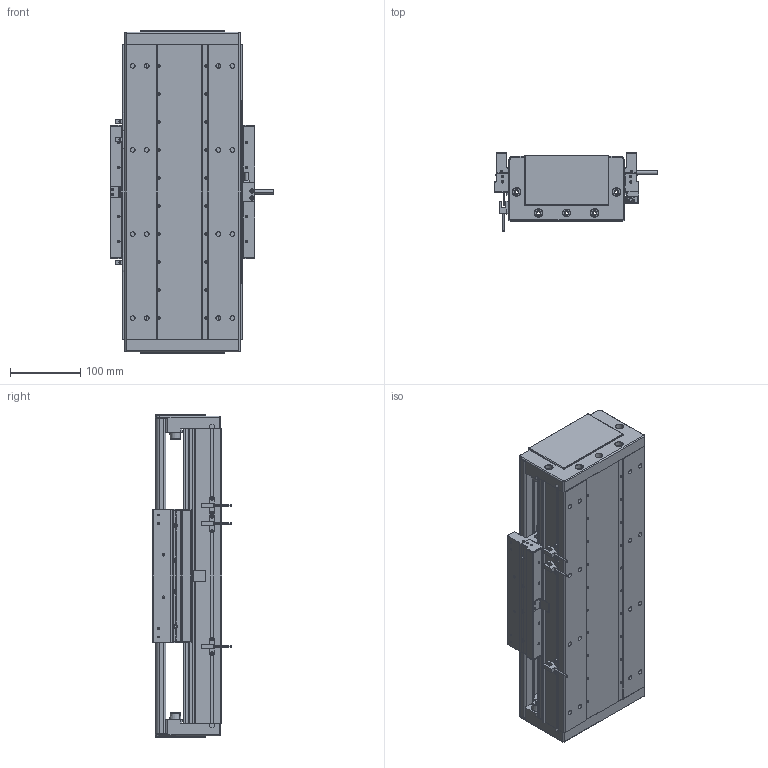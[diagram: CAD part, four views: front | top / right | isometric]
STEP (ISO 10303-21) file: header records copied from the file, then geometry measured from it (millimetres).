
FILE_DESCRIPTION (( 'STEP AP203' ), '1' );
FILE_NAME ('DA-C165-C2-T180-C010-0.2 直线电机.STEP', '2023-05-11T07:27:51', ( '微软用户' ), ( '微软中国' ), 'SwSTEP 2.0', 'SolidWorks 2019', '' );
FILE_SCHEMA (( 'CONFIG_CONTROL_DESIGN' ));
Length unit declared in the file: millimetre
Products named in the file (15): 复件 DMA-010-0.2 读数头^DA-C165-C2-T-C010-0.2-N 直线电机; DA-C165-C2-T180-C010-0.2 眻盄萇儂; 复件 DA165-GYP-00 光电感应片^DA-C165-C2-T-C010-0.2-N 直线电机; 珨极趙賑雄怢啣wf-C2; 葩璃 PM-T45^DA-C165-C2-T-C010-0.2-N 眻盄萇儂; 复件 DA165-T-002-00 盖板^DA-C165-C2-T-C010-0.2-N 直线电机_0840-002-00; 复件 DA165-DG-H-N-00 端盖^DA-C165-C2-T-C010-0.2-N 直线电机; 葩璃 CKM01-W075-TRL^DA-C165-C2-T-C010-0.2-N 眻盄萇儂; 复件 XD-U-02L 磁栅尺^DA-C165-C2-T-C010-0.2-N 直线电机_T; IU-CU165-L 菁釱絳寢; 复件 CKM02-W075-C1C2-TP-3.0 一体电机-C2^DA-C165-C2-T-C010-0.2-N 直线电机; IU-CU165-L-00 菁釱_L420; 葩璃 DA95-GT-T-00^IU-CU165-L 菁釱絳寢_T; 复件 DA95-HXJ-00 缓冲橡胶^DA-C165-C2-T-C010-0.2-N 直线电机; 复件 六角薄螺母 M3^DA-C165-C2-T-C010-0.2-N 直线电机_GB_FASTENER_NUT_STNAB M3-C
Assembly tree (28 placements, depth 3):
  DA-C165-C2-T180-C010-0.2 眻盄萇儂
    IU-CU165-L 菁釱絳寢
      IU-CU165-L-00 菁釱_L420
      葩璃 DA95-GT-T-00^IU-CU165-L 菁釱絳寢_T  x4
    复件 DA165-DG-H-N-00 端盖^DA-C165-C2-T-C010-0.2-N 直线电机  x2
    复件 DA95-HXJ-00 缓冲橡胶^DA-C165-C2-T-C010-0.2-N 直线电机  x4
    复件 DA165-T-002-00 盖板^DA-C165-C2-T-C010-0.2-N 直线电机_0840-002-00
    复件 XD-U-02L 磁栅尺^DA-C165-C2-T-C010-0.2-N 直线电机_T
    葩璃 PM-T45^DA-C165-C2-T-C010-0.2-N 眻盄萇儂  x3
    葩璃 CKM01-W075-TRL^DA-C165-C2-T-C010-0.2-N 眻盄萇儂
    复件 DA165-GYP-00 光电感应片^DA-C165-C2-T-C010-0.2-N 直线电机
    复件 DMA-010-0.2 读数头^DA-C165-C2-T-C010-0.2-N 直线电机
    复件 CKM02-W075-C1C2-TP-3.0 一体电机-C2^DA-C165-C2-T-C010-0.2-N 直线电机
    复件 六角薄螺母 M3^DA-C165-C2-T-C010-0.2-N 直线电机_GB_FASTENER_NUT_STNAB M3-C  x6
    珨极趙賑雄怢啣wf-C2
Bounding box: 233 x 111.45 x 460 mm (x, y, z)
Volume: 4484828.5 mm3; surface area: 1108896.6 mm2
Topology: 66 solids, 66 shells, 2784 faces, 7342 edges, 4561 vertices
Faces by surface type: cylinder 1279, plane 1041, cone 406, torus 54, sphere 4
Entity records: 77981 total; most frequent: CARTESIAN_POINT 16322, DIRECTION 12866, ORIENTED_EDGE 12158, EDGE_CURVE 6079, AXIS2_PLACEMENT_3D 4787, VERTEX_POINT 3897, LINE 3292, VECTOR 3292
